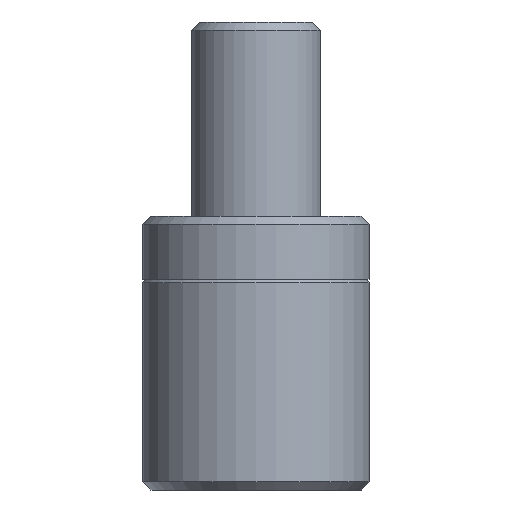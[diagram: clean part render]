
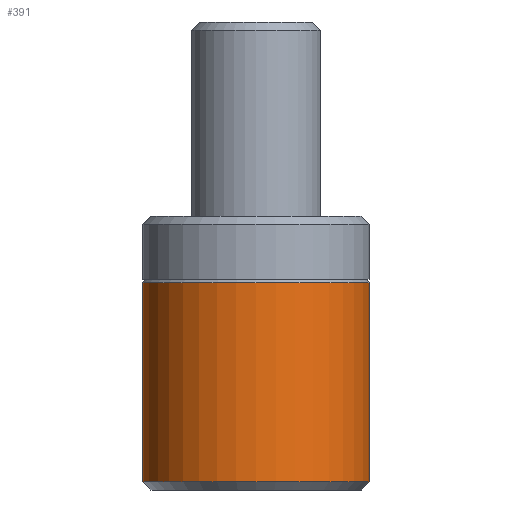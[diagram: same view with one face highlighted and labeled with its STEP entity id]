
A CAD part, left-side view. The second image highlights one B-rep face of the part: STEP entity #391.
In plain terms, the highlighted cylindrical face has radius 7 mm (diameter 14 mm), a partial arc.
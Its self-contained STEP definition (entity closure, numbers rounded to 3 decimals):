
#391=ADVANCED_FACE('NONE',(#916),#917,.T.);
#916=FACE_OUTER_BOUND('',#1639,.T.);
#917=CYLINDRICAL_SURFACE('',#1640,7.0);
#1639=EDGE_LOOP('',(#2528,#2529,#2530,#2531));
#1640=AXIS2_PLACEMENT_3D('',#2532,#2533,#2534);
#2528=ORIENTED_EDGE('',*,*,#4522,.F.);
#2529=ORIENTED_EDGE('',*,*,#4528,.T.);
#2530=ORIENTED_EDGE('',*,*,#4523,.T.);
#2531=ORIENTED_EDGE('',*,*,#4529,.T.);
#2532=CARTESIAN_POINT('',(0.0,0.0,0.0));
#2533=DIRECTION('',(0.0,1.0,0.0));
#2534=DIRECTION('',(0.0,0.0,-1.0));
#4522=EDGE_CURVE('NONE',#5294,#5305,#5336,.T.);
#4523=EDGE_CURVE('NONE',#5296,#5303,#5337,.T.);
#4528=EDGE_CURVE('NONE',#5294,#5296,#5342,.T.);
#4529=EDGE_CURVE('NONE',#5303,#5305,#5343,.T.);
#5294=VERTEX_POINT('NONE',#6448);
#5296=VERTEX_POINT('NONE',#6451);
#5303=VERTEX_POINT('NONE',#6459);
#5305=VERTEX_POINT('NONE',#6462);
#5336=LINE('',#6554,#6555);
#5337=LINE('',#6556,#6557);
#5342=CIRCLE('',#6587,7.0);
#5343=CIRCLE('',#6588,7.0);
#6448=CARTESIAN_POINT('',(0.,12.8,7.0));
#6451=CARTESIAN_POINT('',(0.0,12.8,-7.0));
#6459=CARTESIAN_POINT('',(0.0,0.5,-7.0));
#6462=CARTESIAN_POINT('',(0.,0.5,7.0));
#6554=CARTESIAN_POINT('',(0.,0.0,7.0));
#6555=VECTOR('',#8569,1000.0);
#6556=CARTESIAN_POINT('',(0.0,0.0,-7.0));
#6557=VECTOR('',#8570,1000.0);
#6587=AXIS2_PLACEMENT_3D('',#8574,#8575,#8576);
#6588=AXIS2_PLACEMENT_3D('',#8577,#8578,#8579);
#8569=DIRECTION('',(0.0,-1.0,0.0));
#8570=DIRECTION('',(0.0,-1.0,0.0));
#8574=CARTESIAN_POINT('',(0.0,12.8,0.0));
#8575=DIRECTION('',(0.0,-1.0,0.0));
#8576=DIRECTION('',(0.0,0.0,-1.0));
#8577=CARTESIAN_POINT('',(0.0,0.5,0.0));
#8578=DIRECTION('',(0.0,1.0,0.0));
#8579=DIRECTION('',(0.0,0.0,1.0));
